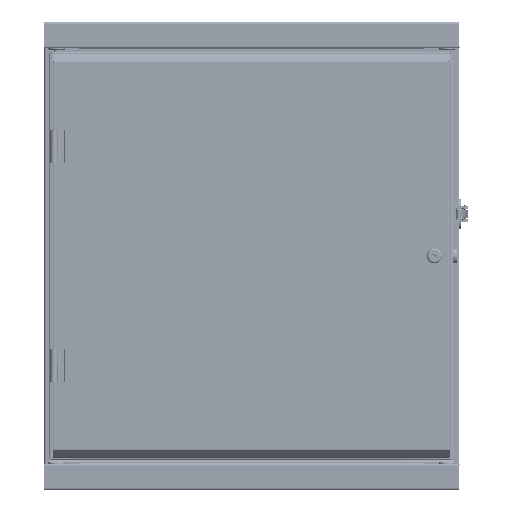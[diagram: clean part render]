
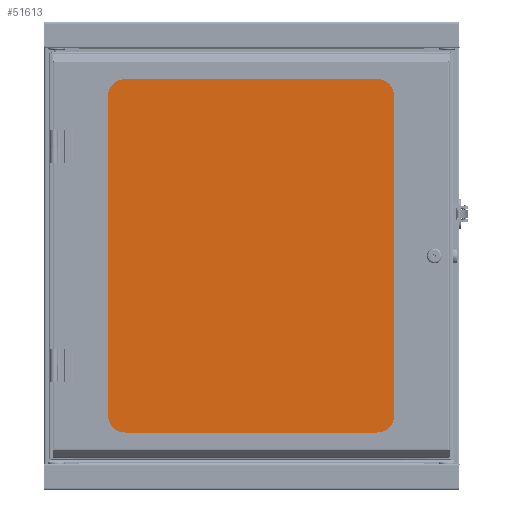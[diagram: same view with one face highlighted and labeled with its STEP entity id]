
A CAD part, front view. The second image highlights one B-rep face of the part: STEP entity #51613.
In plain terms, the highlighted planar face has unit normal (0, -1, 0).
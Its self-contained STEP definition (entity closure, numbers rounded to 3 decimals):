
#4231=LINE('',#87157,#8985);
#4235=LINE('',#87166,#8989);
#4238=LINE('',#87172,#8992);
#4241=LINE('',#87178,#8995);
#8985=VECTOR('',#69036,1000.);
#8989=VECTOR('',#69042,1000.);
#8992=VECTOR('',#69047,1000.);
#8995=VECTOR('',#69052,1000.);
#22844=ORIENTED_EDGE('',*,*,#31582,.T.);
#22845=ORIENTED_EDGE('',*,*,#31586,.T.);
#22846=ORIENTED_EDGE('',*,*,#31589,.T.);
#22847=ORIENTED_EDGE('',*,*,#31592,.T.);
#31582=EDGE_CURVE('',#36977,#36978,#4231,.T.);
#31586=EDGE_CURVE('',#36978,#36981,#4235,.T.);
#31589=EDGE_CURVE('',#36981,#36983,#4238,.T.);
#31592=EDGE_CURVE('',#36983,#36977,#4241,.T.);
#36977=VERTEX_POINT('',#87158);
#36978=VERTEX_POINT('',#87159);
#36981=VERTEX_POINT('',#87167);
#36983=VERTEX_POINT('',#87173);
#43216=EDGE_LOOP('',(#22844,#22845,#22846,#22847));
#47063=FACE_BOUND('',#43216,.T.);
#49058=PLANE('',#56474);
#51613=ADVANCED_FACE('',(#47063),#49058,.T.);
#56474=AXIS2_PLACEMENT_3D('',#87181,#69056,#69057);
#69036=DIRECTION('',(0.,0.,-1.));
#69042=DIRECTION('',(1.,0.,0.));
#69047=DIRECTION('',(0.,0.,1.));
#69052=DIRECTION('',(-1.,0.,0.));
#69056=DIRECTION('',(0.,-1.,0.));
#69057=DIRECTION('',(0.,0.,-1.));
#87157=CARTESIAN_POINT('',(-228.6,0.,285.75));
#87158=CARTESIAN_POINT('',(-228.6,0.,285.75));
#87159=CARTESIAN_POINT('',(-228.6,0.,-285.75));
#87166=CARTESIAN_POINT('',(-228.6,0.,-285.75));
#87167=CARTESIAN_POINT('',(228.6,0.,-285.75));
#87172=CARTESIAN_POINT('',(228.6,0.,-285.75));
#87173=CARTESIAN_POINT('',(228.6,0.,285.75));
#87178=CARTESIAN_POINT('',(228.6,0.,285.75));
#87181=CARTESIAN_POINT('',(-228.6,0.,-285.75));
